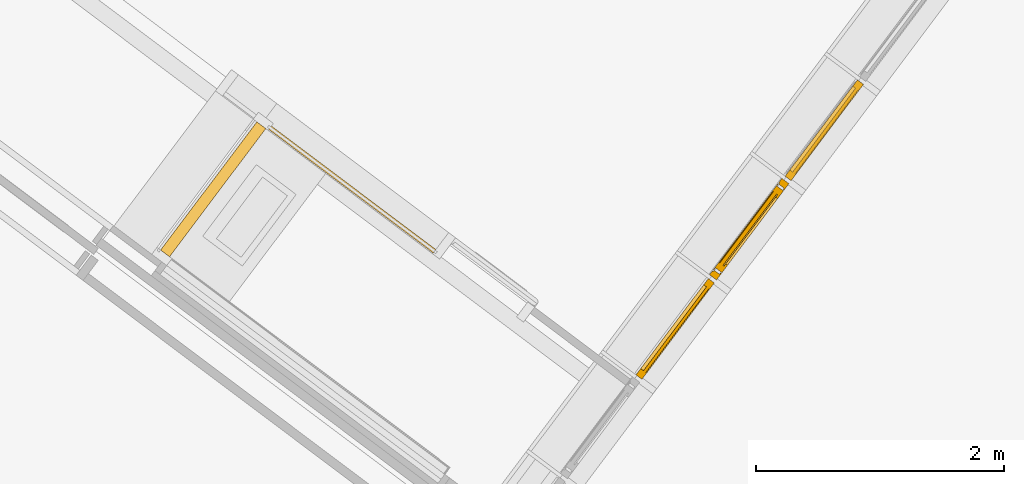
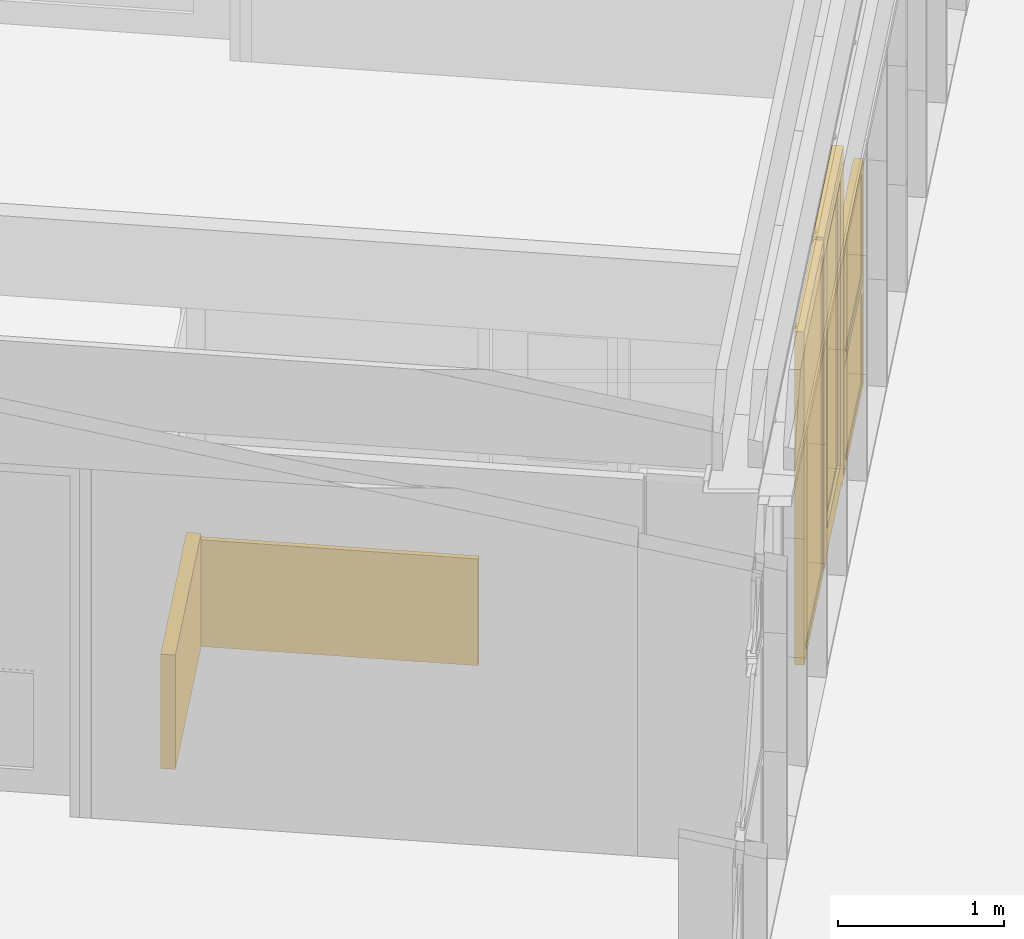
# One storey, part 154 of 243: 3 windows, 2 curtain walls, 1 door, 3 elements without a shape of their own.
"""IFC2X3 building model written with IfcOpenShell, lengths in metres."""

import ifcopenshell
import ifcopenshell.guid

model = None  # the IFC model being written
_history = None  # IfcOwnerHistory: only IFC2X3 demands one
_inside = {}  # id of a spatial element -> (the spatial element, [elements in it])
_under = {}  # id of a project, library or spatial element -> (it, [spatial elements below it])
_declared = {}  # id of a project -> (the project, [libraries it declares])
_typed = {}  # id of a type object -> (the type object, [elements of that type])
_made_of = {}  # id of a material, layer set ... -> (it, [elements and type objects made of it])


def new_model(schema):
    """Start an empty IFC model of exactly this schema.

    Asked for "IFC4X3", IfcOpenShell would pick the latest addendum, in which some entities
    have other attributes; the version numbers below select the first issue.
    IFC2X3 requires an IfcOwnerHistory on every rooted entity: one is made here for all.
    """
    global model, _history
    if schema == "IFC4X3":
        model = ifcopenshell.file(schema_version=(4, 3, 0, 0))
    else:
        model = ifcopenshell.file(schema=schema)
    _inside.clear()
    _under.clear()
    _declared.clear()
    _typed.clear()
    _made_of.clear()
    _history = None
    if model.schema == "IFC2X3":
        org = make("IfcOrganization", Name="unknown")
        user = make(
            "IfcPersonAndOrganization",
            ThePerson=make("IfcPerson", FamilyName="unknown"),
            TheOrganization=org,
        )
        app = make(
            "IfcApplication",
            ApplicationDeveloper=org,
            Version="unknown",
            ApplicationFullName="unknown",
            ApplicationIdentifier="unknown",
        )
        _history = make(
            "IfcOwnerHistory",
            OwningUser=user,
            OwningApplication=app,
            ChangeAction="ADDED",
            CreationDate=0,
        )
    return model


def make(cls, **values):
    """One entity of the class cls with the attributes given. An attribute that is None is left unset."""
    return model.create_entity(
        cls, **{name: value for name, value in values.items() if value is not None}
    )


def entity(cls, *values):
    """Any entity or typed value of the class cls, its attributes in the order of the schema. None: left unset."""
    e = model.create_entity(cls)
    for i, value in enumerate(values):
        if value is not None:
            e[i] = value
    return e


def rooted(cls, **values):
    """An entity with a GlobalId (a new one), such as an element, a storey or a relation."""
    return make(cls, GlobalId=ifcopenshell.guid.new(), OwnerHistory=_history, **values)


def si_unit(unit_type, name, prefix=None):
    """IfcSIUnit, for example si_unit("LENGTHUNIT", "METRE", prefix="MILLI")."""
    return make("IfcSIUnit", UnitType=unit_type, Prefix=prefix, Name=name)


def converted_unit(unit_type, name, factor, base, dimensions=None, offset=None):
    """IfcConversionBasedUnit, such as the inch: factor (a typed value) times the base unit."""
    return make(
        "IfcConversionBasedUnit"
        if offset is None
        else "IfcConversionBasedUnitWithOffset",
        ConversionOffset=offset,
        Dimensions=None
        if dimensions is None
        else entity("IfcDimensionalExponents", *dimensions),
        UnitType=unit_type,
        Name=name,
        ConversionFactor=make(
            "IfcMeasureWithUnit", ValueComponent=factor, UnitComponent=base
        ),
    )


def derived_unit(unit_type, elements):
    """IfcDerivedUnit: a product of units, each with its exponent."""
    return make(
        "IfcDerivedUnit",
        Elements=[
            make("IfcDerivedUnitElement", Unit=unit, Exponent=power)
            for unit, power in elements
        ],
        UnitType=unit_type,
    )


def assignment(units):
    """IfcUnitAssignment: the units of a project."""
    return None if units is None else make("IfcUnitAssignment", Units=units)


def point(xyz):
    """IfcCartesianPoint."""
    return None if xyz is None else make("IfcCartesianPoint", Coordinates=xyz)


def direction(xyz):
    """IfcDirection."""
    return None if xyz is None else make("IfcDirection", DirectionRatios=xyz)


def frame(location, z_axis=None, x_axis=None):
    """IfcAxis2Placement3D, a coordinate frame: its origin and axes. An axis left out is left unset."""
    return make(
        "IfcAxis2Placement3D",
        Location=point(location),
        Axis=direction(z_axis),
        RefDirection=direction(x_axis),
    )


def frame_2d(location, x_axis=None):
    """IfcAxis2Placement2D, a coordinate frame in the plane: its origin and x axis."""
    return make(
        "IfcAxis2Placement2D", Location=point(location), RefDirection=direction(x_axis)
    )


def origin():
    """The frame at (0, 0, 0) with its axes left unset."""
    return frame((0.0, 0.0, 0.0))


def place(relative_to, where):
    """IfcLocalPlacement: puts the frame where relative to a parent placement (None: the world)."""
    return make(
        "IfcLocalPlacement", PlacementRelTo=relative_to, RelativePlacement=where
    )


def context(
    kind, dimensions, precision=None, world=None, true_north=None, identifier=None
):
    """IfcGeometricRepresentationContext, for example the 3D "Model" context."""
    return make(
        "IfcGeometricRepresentationContext",
        ContextIdentifier=identifier,
        ContextType=kind,
        CoordinateSpaceDimension=dimensions,
        Precision=precision,
        WorldCoordinateSystem=world,
        TrueNorth=true_north,
    )


def subcontext(parent, identifier, kind, view, scale=None):
    """IfcGeometricRepresentationSubContext, for example "Body" below "Model"."""
    return make(
        "IfcGeometricRepresentationSubContext",
        ContextIdentifier=identifier,
        ContextType=kind,
        ParentContext=parent,
        TargetScale=scale,
        TargetView=view,
    )


def project(units=None, contexts=None):
    """IfcProject with its units and contexts."""
    return rooted(
        "IfcProject",
        Name="project",
        RepresentationContexts=contexts,
        UnitsInContext=assignment(units),
    )


def spatial(cls, under=None, at=None, **own):
    """A site, building, storey or space (cls), placed at a placement, below another one or the project."""
    s = rooted(cls, ObjectPlacement=at, **own)
    if under is not None:
        _under.setdefault(under.id(), (under, []))[1].append(s)
    return s


def profile(cls, at=None, kind="AREA", **sizes):
    """A parametric profile (cls). Its sizes go by their IFC names, for example OverallWidth=200.0."""
    return make(cls, ProfileType=kind, Position=at, **sizes)


def rectangle(**sizes):
    """IfcRectangleProfileDef."""
    return profile("IfcRectangleProfileDef", **sizes)


def extrude(swept, where, along, depth):
    """IfcExtrudedAreaSolid: the profile swept, set in the frame where, extruded along a direction by depth."""
    return make(
        "IfcExtrudedAreaSolid",
        SweptArea=swept,
        Position=where,
        ExtrudedDirection=direction(along),
        Depth=depth,
    )


def faces_of(points, faces, orient=None, outer=None):
    """IfcFace entities. A face is a list of loops; a loop is a list of indices into points, from 0.

    orient and outer hold one flag for each loop. By default every Orientation is true, the
    first loop of a face is its IfcFaceOuterBound and the others are IfcFaceBound.
    """
    made = []
    for i, loops in enumerate(faces):
        bounds = []
        for j, loop in enumerate(loops):
            is_outer = j == 0 if outer is None else outer[i][j]
            bounds.append(
                make(
                    "IfcFaceOuterBound" if is_outer else "IfcFaceBound",
                    Bound=make("IfcPolyLoop", Polygon=[points[k] for k in loop]),
                    Orientation=True if orient is None else orient[i][j],
                )
            )
        made.append(make("IfcFace", Bounds=bounds))
    return made


def faceted_brep(points, faces, orient=None, outer=None, voids=None):
    """IfcFacetedBrep: a solid bounded by flat faces; with voids (closed shells), ...WithVoids."""
    shared = [point(p) for p in points]
    hull = make("IfcClosedShell", CfsFaces=faces_of(shared, faces, orient, outer))
    if voids is None:
        return make("IfcFacetedBrep", Outer=hull)
    return make(
        "IfcFacetedBrepWithVoids",
        Outer=hull,
        Voids=[
            make(cls, CfsFaces=faces_of(shared, fs, o, b)) for cls, fs, o, b in voids
        ],
    )


def shape(context_of_items, identifier, shape_type, items):
    """IfcShapeRepresentation: the items that make up one representation, for example the "Body"."""
    return make(
        "IfcShapeRepresentation",
        ContextOfItems=context_of_items,
        RepresentationIdentifier=identifier,
        RepresentationType=shape_type,
        Items=items,
    )


def source(mapping_origin, context_of_items, identifier, shape_type, items):
    """IfcRepresentationMap: a shape defined once, which mapped items show again and again."""
    return make(
        "IfcRepresentationMap",
        MappingOrigin=mapping_origin,
        MappedRepresentation=shape(context_of_items, identifier, shape_type, items),
    )


def transform(
    local_origin,
    x_axis=None,
    y_axis=None,
    z_axis=None,
    scale=None,
    scale2=None,
    scale3=None,
    uniform=True,
):
    """IfcCartesianTransformationOperator3D, or its non-uniform kind. x_axis, y_axis, z_axis: its Axis1, 2, 3."""
    if uniform:
        return make(
            "IfcCartesianTransformationOperator3D",
            Axis1=direction(x_axis),
            Axis2=direction(y_axis),
            LocalOrigin=point(local_origin),
            Scale=scale,
            Axis3=direction(z_axis),
        )
    return make(
        "IfcCartesianTransformationOperator3DnonUniform",
        Axis1=direction(x_axis),
        Axis2=direction(y_axis),
        LocalOrigin=point(local_origin),
        Scale=scale,
        Axis3=direction(z_axis),
        Scale2=scale2,
        Scale3=scale3,
    )


def mapped(mapping_source, mapping_target):
    """IfcMappedItem: shows the shape of a source again, moved by a transform."""
    return make(
        "IfcMappedItem", MappingSource=mapping_source, MappingTarget=mapping_target
    )


def material(Name=None, Category=None):
    """IfcMaterial."""
    return make("IfcMaterial", Name=Name, Category=Category)


def material_list(materials):
    """IfcMaterialList."""
    return make("IfcMaterialList", Materials=materials)


def layer(
    of_material, thickness, ventilated=None, Name=None, Category=None, Priority=None
):
    """IfcMaterialLayer: one layer of a wall or slab, of a material (None: an air gap)."""
    return make(
        "IfcMaterialLayer",
        Material=of_material,
        LayerThickness=thickness,
        IsVentilated=ventilated,
        Name=Name,
        Category=Category,
        Priority=Priority,
    )


def layer_set(layers, Name=None):
    """IfcMaterialLayerSet."""
    return make("IfcMaterialLayerSet", MaterialLayers=layers, LayerSetName=Name)


def layer_usage(for_layer_set, set_direction, sense, offset, extent=None):
    """IfcMaterialLayerSetUsage: how a layer set lies in its element."""
    return make(
        "IfcMaterialLayerSetUsage",
        ForLayerSet=for_layer_set,
        LayerSetDirection=set_direction,
        DirectionSense=sense,
        OffsetFromReferenceLine=offset,
        ReferenceExtent=extent,
    )


def made_of(thing, what):
    """Note that an element or type object is made of a material, layer set ...; save() writes the relation."""
    if what is not None:
        _made_of.setdefault(what.id(), (what, []))[1].append(thing)
    return thing


def type_object(cls, material=None, **own):
    """A type object (cls), such as IfcWallType, which elements share."""
    return made_of(rooted(cls, **own), material)


def type_shapes(of_type, sources):
    """Give a type object the sources (RepresentationMaps) that its elements show as mapped items."""
    of_type.RepresentationMaps = sources


def element(
    cls,
    number,
    at=None,
    inside=None,
    cuts=None,
    type_object=None,
    material=None,
    context=None,
    identifier="Body",
    shape_type=None,
    held_by="IfcProductDefinitionShape",
    body=None,
    shapes=None,
    **own,
):
    """One element of the class cls, such as IfcWall. Its Tag is "e" and its number.

    at: its placement. inside: the storey or other place that contains it. cuts: it is an
    opening in that element (IfcRelVoidsElement). A single representation is given by context,
    identifier, shape_type and body (its items); several are given by shapes. held_by: the class
    of the entity that holds the representations. save() writes the other relations.
    """
    e = rooted(cls, Tag="e%d" % number, ObjectPlacement=at, **own)
    if body is not None:
        shapes = [shape(context, identifier, shape_type, body)]
    if shapes is not None:
        e.Representation = make(held_by, Representations=shapes)
    if inside is not None:
        _inside.setdefault(inside.id(), (inside, []))[1].append(e)
    if cuts is not None:
        rooted(
            "IfcRelVoidsElement", RelatingBuildingElement=cuts, RelatedOpeningElement=e
        )
    if type_object is not None:
        _typed.setdefault(type_object.id(), (type_object, []))[1].append(e)
    return made_of(e, material)


def aggregate(whole, parts):
    """IfcRelAggregates: a whole, such as a stair, and the parts it consists of."""
    return rooted("IfcRelAggregates", RelatingObject=whole, RelatedObjects=parts)


def save(model, path):
    """Write the relations noted so far, then the file.

    IfcRelAggregates (storeys below a building ...), IfcRelContainedInSpatialStructure (elements
    in a storey), IfcRelDefinesByType, IfcRelAssociatesMaterial and IfcRelDeclares: one each for
    every whole, place, type object, material and project.
    """
    for whole, parts in _under.values():
        aggregate(whole, parts)
    for where, things in _inside.values():
        rooted(
            "IfcRelContainedInSpatialStructure",
            RelatedElements=things,
            RelatingStructure=where,
        )
    for kind, things in _typed.values():
        rooted("IfcRelDefinesByType", RelatedObjects=things, RelatingType=kind)
    for what, things in _made_of.values():
        rooted("IfcRelAssociatesMaterial", RelatedObjects=things, RelatingMaterial=what)
    for by, libraries in _declared.values():
        rooted("IfcRelDeclares", RelatingContext=by, RelatedDefinitions=libraries)
    model.write(path)


model = new_model("IFC2X3")

# Units and contexts
model_context = context("Model", 3, precision=1e-05, world=origin(), true_north=direction((6.123031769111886e-17, 1.0)))
body_context = subcontext(model_context, "Body", "Model", "MODEL_VIEW")
ifc_project = project(units=[si_unit("LENGTHUNIT", "METRE"), si_unit("AREAUNIT", "SQUARE_METRE"), si_unit("VOLUMEUNIT", "CUBIC_METRE"), converted_unit("PLANEANGLEUNIT", "DEGREE", entity("IfcRatioMeasure", 0.017453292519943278), si_unit("PLANEANGLEUNIT", "RADIAN"), dimensions=[0, 0, 0, 0, 0, 0, 0]), si_unit("MASSUNIT", "GRAM", prefix="KILO"), derived_unit("MASSDENSITYUNIT", [(si_unit("MASSUNIT", "GRAM", prefix="KILO"), 1), (si_unit("LENGTHUNIT", "METRE"), -3)]), derived_unit("IONCONCENTRATIONUNIT", [(si_unit("MASSUNIT", "GRAM", prefix="KILO"), 1), (si_unit("LENGTHUNIT", "METRE"), -3)]), derived_unit("MOMENTOFINERTIAUNIT", [(si_unit("LENGTHUNIT", "METRE"), 4)]), si_unit("TIMEUNIT", "SECOND"), si_unit("FREQUENCYUNIT", "HERTZ"), si_unit("THERMODYNAMICTEMPERATUREUNIT", "DEGREE_CELSIUS"), derived_unit("THERMALTRANSMITTANCEUNIT", [(si_unit("MASSUNIT", "GRAM", prefix="KILO"), 1), (si_unit("THERMODYNAMICTEMPERATUREUNIT", "KELVIN"), -1), (si_unit("TIMEUNIT", "SECOND"), -3)]), derived_unit("THERMALCONDUCTANCEUNIT", [(si_unit("MASSUNIT", "GRAM", prefix="KILO"), 1), (si_unit("THERMODYNAMICTEMPERATUREUNIT", "KELVIN"), -1), (si_unit("TIMEUNIT", "SECOND"), -3), (si_unit("LENGTHUNIT", "METRE"), 1)]), derived_unit("VOLUMETRICFLOWRATEUNIT", [(si_unit("LENGTHUNIT", "METRE"), 3), (si_unit("TIMEUNIT", "SECOND"), -1)]), derived_unit("MASSFLOWRATEUNIT", [(si_unit("MASSUNIT", "GRAM", prefix="KILO"), 1), (si_unit("TIMEUNIT", "SECOND"), -1)]), derived_unit("ROTATIONALFREQUENCYUNIT", [(si_unit("TIMEUNIT", "SECOND"), -1)]), si_unit("ELECTRICCURRENTUNIT", "AMPERE"), si_unit("ELECTRICVOLTAGEUNIT", "VOLT"), si_unit("POWERUNIT", "WATT"), si_unit("FORCEUNIT", "NEWTON", prefix="KILO"), si_unit("ILLUMINANCEUNIT", "LUX"), si_unit("LUMINOUSFLUXUNIT", "LUMEN"), si_unit("LUMINOUSINTENSITYUNIT", "CANDELA"), derived_unit("USERDEFINED", [(si_unit("MASSUNIT", "GRAM", prefix="KILO"), -1), (si_unit("LENGTHUNIT", "METRE"), -2), (si_unit("TIMEUNIT", "SECOND"), 3), (si_unit("LUMINOUSFLUXUNIT", "LUMEN"), 1)]), derived_unit("USERDEFINED", [(si_unit("MASSUNIT", "GRAM", prefix="KILO"), 1), (si_unit("TIMEUNIT", "SECOND"), -3), (si_unit("LENGTHUNIT", "METRE"), 3), (si_unit("ELECTRICCURRENTUNIT", "AMPERE"), -2)]), derived_unit("SOUNDPOWERUNIT", [(si_unit("MASSUNIT", "GRAM", prefix="KILO"), 1), (si_unit("TIMEUNIT", "SECOND"), -3), (si_unit("LENGTHUNIT", "METRE"), 2)]), derived_unit("SOUNDPRESSUREUNIT", [(si_unit("MASSUNIT", "GRAM", prefix="KILO"), 1), (si_unit("LENGTHUNIT", "METRE"), -1), (si_unit("TIMEUNIT", "SECOND"), -2)]), derived_unit("LINEARVELOCITYUNIT", [(si_unit("LENGTHUNIT", "METRE"), 1), (si_unit("TIMEUNIT", "SECOND"), -1)]), si_unit("PRESSUREUNIT", "PASCAL"), derived_unit("USERDEFINED", [(si_unit("MASSUNIT", "GRAM", prefix="KILO"), 1), (si_unit("LENGTHUNIT", "METRE"), -2), (si_unit("TIMEUNIT", "SECOND"), -2)]), derived_unit("LINEARFORCEUNIT", [(si_unit("MASSUNIT", "GRAM", prefix="KILO"), 1), (si_unit("TIMEUNIT", "SECOND"), -2)]), derived_unit("PLANARFORCEUNIT", [(si_unit("MASSUNIT", "GRAM", prefix="KILO"), 1), (si_unit("LENGTHUNIT", "METRE"), -1), (si_unit("TIMEUNIT", "SECOND"), -2)]), derived_unit("SPECIFICHEATCAPACITYUNIT", [(si_unit("THERMODYNAMICTEMPERATUREUNIT", "KELVIN"), -1), (si_unit("LENGTHUNIT", "METRE"), 2), (si_unit("TIMEUNIT", "SECOND"), -2)]), derived_unit("HEATINGVALUEUNIT", [(si_unit("LENGTHUNIT", "METRE"), 2), (si_unit("TIMEUNIT", "SECOND"), -2)]), derived_unit("VAPORPERMEABILITYUNIT", [(si_unit("LENGTHUNIT", "METRE"), -1), (si_unit("TIMEUNIT", "SECOND"), 1)]), derived_unit("DYNAMICVISCOSITYUNIT", [(si_unit("MASSUNIT", "GRAM", prefix="KILO"), 1), (si_unit("TIMEUNIT", "SECOND"), -1), (si_unit("LENGTHUNIT", "METRE"), -1)]), derived_unit("THERMALEXPANSIONCOEFFICIENTUNIT", [(si_unit("THERMODYNAMICTEMPERATUREUNIT", "KELVIN"), -1)]), derived_unit("MODULUSOFELASTICITYUNIT", [(si_unit("MASSUNIT", "GRAM", prefix="KILO"), 1), (si_unit("LENGTHUNIT", "METRE"), -1), (si_unit("TIMEUNIT", "SECOND"), -2)]), derived_unit("ISOTHERMALMOISTURECAPACITYUNIT", [(si_unit("LENGTHUNIT", "METRE"), 3), (si_unit("MASSUNIT", "GRAM", prefix="KILO"), -1)]), derived_unit("MOISTUREDIFFUSIVITYUNIT", [(si_unit("TIMEUNIT", "SECOND"), -1), (si_unit("LENGTHUNIT", "METRE"), 2)])], contexts=[model_context])

# Site, building, storey
site_placement = place(None, frame((0.0, 0.0, 235.0), z_axis=(0.0, 0.0, 1.0), x_axis=(-0.7996477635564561, 0.6004693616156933, 0.0)))
site = spatial("IfcSite", under=ifc_project, at=site_placement, Name="Default", CompositionType="ELEMENT")
building_placement = place(site_placement, origin())
building = spatial("IfcBuilding", under=site, at=building_placement, CompositionType="ELEMENT")
storey_placement = place(building_placement, origin())
storey = spatial("IfcBuildingStorey", under=building, at=storey_placement, Name="P0- Escola", CompositionType="ELEMENT", Elevation=0.0)

# Curtain walls
curtain_wall_type_1 = type_object("IfcCurtainWallType", Name="Muro cortina:MC- INT- k1", PredefinedType="NOTDEFINED")
curtain_wall_1_placement = place(storey_placement, origin())
curtain_wall_1 = element("IfcCurtainWall", 1, at=curtain_wall_1_placement, inside=storey, type_object=curtain_wall_type_1, Name="Muro cortina:MC- INT- k1", ObjectType="Muro cortina:MC- INT- k1")
ifc_material_1 = material(Name="_Fusta massisa- T1-  REV- PAV")
ifc_layer_1 = layer(ifc_material_1, 0.015)
ifc_material_2 = material(Name="_Genèric perfils, muntants, rastrells")
ifc_layer_2 = layer(ifc_material_2, 0.02)
ifc_layer_set_1 = layer_set([ifc_layer_1, ifc_layer_2], Name="Muro básico:REV- Fusta- T1- 3,5 cm")
ifc_layer_usage_1 = layer_usage(ifc_layer_set_1, "AXIS2", "NEGATIVE", 0.0175)
curtain_wall_type_2 = type_object("IfcCurtainWallType", Name="Muro básico:REV- Fusta- T1- 3,5 cm", PredefinedType="NOTDEFINED", material=ifc_layer_set_1)
curtain_wall_2_placement = place(storey_placement, frame((9.57014768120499, -27.82719175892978, 0.0), z_axis=(0.0, 0.0, 1.0), x_axis=(-1.0, 0.0, 0.0)))
curtain_wall_2 = element("IfcCurtainWall", 2, at=curtain_wall_2_placement, type_object=curtain_wall_type_2, material=ifc_layer_usage_1, Name="Muro básico:REV- Fusta- T1- 3,5 cm", ObjectType="Muro básico:REV- Fusta- T1- 3,5 cm", context=body_context, shape_type="SweptSolid", body=[
    extrude(rectangle(XDim=0.035000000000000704, YDim=1.731000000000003, at=frame_2d((-2.1649348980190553e-15, 1.0547118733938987e-15), x_axis=(1.0, 0.0))), frame((0.8655000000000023, 0.0, 0.0), z_axis=(0.0, 0.0, 1.0), x_axis=(0.0, 1.0, 0.0)), (0.0, 0.0, 1.0), 0.7849999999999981),
])
aggregate(curtain_wall_1, [curtain_wall_2])

curtain_wall_type_3 = type_object("IfcCurtainWallType", Name="Muro cortina:MC- INT- k1", PredefinedType="NOTDEFINED")
curtain_wall_3_placement = place(storey_placement, origin())
curtain_wall_3 = element("IfcCurtainWall", 3, at=curtain_wall_3_placement, inside=storey, type_object=curtain_wall_type_3, Name="Muro cortina:MC- INT- k1", ObjectType="Muro cortina:MC- INT- k1")
ifc_material_3 = material(Name="_Ceràmica- ENV")
ifc_layer_3 = layer(ifc_material_3, 0.09)
ifc_layer_set_2 = layer_set([ifc_layer_3], Name="Muro básico:ENV- Ceràmic- 9 cm")
ifc_layer_usage_2 = layer_usage(ifc_layer_set_2, "AXIS2", "NEGATIVE", 0.045)
curtain_wall_type_4 = type_object("IfcCurtainWallType", Name="Muro básico:ENV- Ceràmic- 9 cm", PredefinedType="NOTDEFINED", material=ifc_layer_set_2)
curtain_wall_4_placement = place(storey_placement, frame((9.564147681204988, -27.801191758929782, 0.0), z_axis=(0.0, 0.0, 1.0), x_axis=(0.0, 1.0, 0.0)))
curtain_wall_4 = element("IfcCurtainWall", 4, at=curtain_wall_4_placement, type_object=curtain_wall_type_4, material=ifc_layer_usage_2, Name="Muro básico:ENV- Ceràmic- 9 cm", ObjectType="Muro básico:ENV- Ceràmic- 9 cm", context=body_context, shape_type="SweptSolid", body=[
    extrude(rectangle(XDim=0.09000000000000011, YDim=1.2910000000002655, at=frame_2d((-5.412337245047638e-16, 2.1649348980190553e-15), x_axis=(1.0, 0.0))), frame((0.6455000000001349, 0.0, 0.0), z_axis=(0.0, 0.0, 1.0), x_axis=(0.0, 1.0, 0.0)), (0.0, 0.0, 1.0), 0.8399999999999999),
])
aggregate(curtain_wall_3, [curtain_wall_4])

# Curtain wall, windows, door
curtain_wall_type_5 = type_object("IfcCurtainWallType", Name="Muro cortina:MC- EXT- MC2", PredefinedType="NOTDEFINED")
curtain_wall_5_placement = place(storey_placement, origin())
curtain_wall_5 = element("IfcCurtainWall", 5, at=curtain_wall_5_placement, inside=storey, type_object=curtain_wall_type_5, Name="Muro cortina:MC- EXT- MC2", ObjectType="Muro cortina:MC- EXT- MC2")
ifc_material_4 = material(Name="_Vidre")
ifc_material_5 = material(Name="_Alumini- T1- Perfil")
ifc_material_list_1 = material_list([ifc_material_4, ifc_material_5])
window_style_1 = type_object("IfcWindowStyle", Name="MC- Alu- Conjunt vidre fix- 62x60 cm:MC- Alu- Conjunt vidre fix- 62x60 cm", ConstructionType="NOTDEFINED", OperationType="NOTDEFINED", ParameterTakesPrecedence=False, Sizeable=False, material=ifc_material_list_1)
shared_shape_1 = source(origin(), body_context, "Body", "Brep", [
    faceted_brep([(0.4361932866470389, -0.007600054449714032, 0.048806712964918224), (0.4361932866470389, -0.03160022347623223, 0.048806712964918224), (-0.4361932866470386, -0.03160022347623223, 0.048806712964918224), (-0.4361932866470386, -0.007600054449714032, 0.048806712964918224), (0.4361932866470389, -0.007600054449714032, 2.4024499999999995), (-0.4361932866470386, -0.007600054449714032, 2.4024499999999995), (-0.4361932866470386, -0.03160022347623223, 2.4024499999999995), (0.4361932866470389, -0.03160022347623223, 2.4024499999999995)], [[[0, 1, 2, 3]], [[4, 0, 3, 5]], [[5, 3, 2, 6]], [[6, 2, 1, 7]], [[7, 1, 0, 4]], [[4, 5, 6, 7]]]),
    faceted_brep([(0.4849999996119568, -0.05999999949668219, 2.4514499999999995), (0.48499999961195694, -0.05999999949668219, 0.0), (0.48499999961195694, 0.0, 0.0), (0.48499999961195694, 0.0, 2.4514499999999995), (-0.48499999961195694, 0.0, 2.4514499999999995), (-0.48499999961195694, 0.0, 0.0), (0.42219318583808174, 0.0, 2.3886431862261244), (-0.42219318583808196, 0.0, 2.3886431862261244), (-0.42219318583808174, 0.0, 0.0628068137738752), (0.422193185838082, 0.0, 0.06280681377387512), (-0.48499999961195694, -0.05999999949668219, 0.0), (-0.4849999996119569, -0.05999999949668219, 2.4514499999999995), (-0.4221960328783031, -0.05999999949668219, 2.3886460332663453), (0.4221960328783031, -0.05999999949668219, 2.3886460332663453), (0.4221960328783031, -0.05999999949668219, 0.06280396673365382), (-0.4221960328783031, -0.05999999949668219, 0.06280396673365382), (0.42219603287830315, -0.03160022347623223, 2.3886460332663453), (0.4221960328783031, -0.03160022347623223, 0.06280396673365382), (-0.4221960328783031, -0.03160022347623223, 0.0628039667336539), (-0.42219603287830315, -0.03160022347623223, 2.3886460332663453), (-0.43619328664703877, -0.03160022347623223, 2.4026432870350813), (0.43619328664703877, -0.03160022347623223, 2.4026432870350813), (0.43619328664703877, -0.03160022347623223, 0.048806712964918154), (-0.43619328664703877, -0.03160022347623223, 0.04880671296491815), (0.43619328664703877, -0.007600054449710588, 2.4026432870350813), (0.43619328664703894, -0.007600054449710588, 0.04880671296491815), (-0.43619328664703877, -0.007600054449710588, 0.048806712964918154), (-0.43619328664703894, -0.007600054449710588, 2.4026432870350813), (-0.42219318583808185, -0.007600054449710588, 2.3886431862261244), (0.4221931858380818, -0.007600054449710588, 2.3886431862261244), (0.4221931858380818, -0.007600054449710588, 0.06280681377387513), (-0.4221931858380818, -0.007600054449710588, 0.06280681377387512)], [[[0, 1, 2, 3]], [[4, 3, 2, 5], [6, 7, 8, 9]], [[1, 10, 5, 2]], [[0, 11, 10, 1], [12, 13, 14, 15]], [[16, 17, 14, 13]], [[17, 18, 15, 14]], [[16, 19, 18, 17], [20, 21, 22, 23]], [[24, 25, 22, 21]], [[25, 26, 23, 22]], [[24, 27, 26, 25], [28, 29, 30, 31]], [[6, 9, 30, 29]], [[9, 8, 31, 30]], [[10, 11, 4, 5]], [[18, 19, 12, 15]], [[26, 27, 20, 23]], [[8, 7, 28, 31]], [[11, 0, 3, 4]], [[19, 16, 13, 12]], [[27, 24, 21, 20]], [[7, 6, 29, 28]]], outer=[[True], [True, False], [True], [True, False], [True], [True], [False, True], [True], [True], [True, False], [True], [True], [True], [True], [True], [True], [True], [True], [True], [True]]),
])
type_shapes(window_style_1, [shared_shape_1])
window_1_placement = place(curtain_wall_5_placement, frame((5.885147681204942, -28.49019175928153, 0.03229999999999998), z_axis=(0.0, 0.0, 1.0), x_axis=(0.0, 1.0, 0.0)))
window_1 = element("IfcWindow", 6, at=window_1_placement, type_object=window_style_1, material=ifc_material_list_1, Name="MC- Alu- Conjunt vidre fix- 62x60 cm:MC- Alu- Conjunt vidre fix- 62x60 cm", ObjectType="MC- Alu- Conjunt vidre fix- 62x60 cm:MC- Alu- Conjunt vidre fix- 62x60 cm", OverallHeight=2.4514499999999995, OverallWidth=0.969999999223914, context=body_context, shape_type="MappedRepresentation", body=[
    mapped(shared_shape_1, transform((0.0, 0.0, 0.0), scale=1.0)),
])
ifc_material_list_2 = material_list([ifc_material_5, ifc_material_4])
door_style = type_object("IfcDoorStyle", Name="MC- Alu- Conjunt porta- 70x60 cm- +15cm- obertura int:MC- Alu- Conjunt porta- 70x60 cm- +15cm- obertura int", ConstructionType="NOTDEFINED", OperationType="NOTDEFINED", ParameterTakesPrecedence=False, Sizeable=False, material=ifc_material_list_2)
shared_shape_2 = source(origin(), body_context, "Body", "Brep", [
    faceted_brep([(-0.4116999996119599, 0.0, 0.024000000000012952), (0.4116999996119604, 0.0, 0.024000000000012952), (0.4116999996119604, -0.06569970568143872, 0.024000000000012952), (-0.41169999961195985, -0.0656997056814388, 0.024000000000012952), (-0.4116999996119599, -0.0656997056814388, 2.3781499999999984), (-0.4116999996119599, 0.0, 2.3781499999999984), (0.41169999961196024, -0.06569970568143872, 2.3781499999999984), (0.4356999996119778, -0.06569970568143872, 0.0), (-0.43569999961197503, -0.06569970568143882, 0.0), (-0.4356999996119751, -0.06569970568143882, 2.4021500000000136), (0.43569999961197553, -0.06569970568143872, 2.4021500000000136), (0.4116999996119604, 0.0, 2.3781499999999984), (-0.3350999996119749, 0.0, 2.3015500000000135), (-0.33509999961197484, 0.0, 0.20400000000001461), (0.3350999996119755, 0.0, 0.20400000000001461), (0.33509999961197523, 0.0, 2.3015500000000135), (0.43569999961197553, -0.0699997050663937, 2.4021500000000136), (0.43569999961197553, -0.0699997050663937, 0.0), (-0.43569999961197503, -0.06999970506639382, 0.0), (-0.4356999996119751, -0.06999970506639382, 2.4021500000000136), (0.3350999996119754, -0.06999970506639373, 2.3015500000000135), (0.3350999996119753, -0.06999970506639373, 0.20400000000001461), (-0.33509999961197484, -0.06999970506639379, 0.20400000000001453), (-0.3350999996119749, -0.06999970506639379, 2.3015500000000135), (0.33509999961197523, -0.06449970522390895, 2.3015500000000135), (0.3350999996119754, -0.06449970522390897, 0.20400000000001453), (-0.33509999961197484, -0.06449970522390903, 0.20400000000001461), (-0.3350999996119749, -0.06449970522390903, 2.3015500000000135), (0.36010000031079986, -0.06449970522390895, 2.326550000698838), (0.36010000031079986, -0.06449970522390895, 0.17899999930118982), (-0.3601000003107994, -0.06449970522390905, 0.17899999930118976), (-0.3601000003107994, -0.06449970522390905, 2.326550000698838), (0.3601000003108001, -0.01899970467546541, 2.326550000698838), (0.36010000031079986, -0.018999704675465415, 0.17899999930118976), (-0.3601000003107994, -0.018999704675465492, 0.17899999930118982), (-0.36010000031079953, -0.01899970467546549, 2.326550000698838), (0.3350999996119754, -0.018999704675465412, 2.3015500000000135), (0.33509999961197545, -0.018999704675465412, 0.20400000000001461), (-0.33509999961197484, -0.018999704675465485, 0.20400000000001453), (-0.3350999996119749, -0.018999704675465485, 2.3015500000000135)], [[[0, 1, 2, 3]], [[4, 5, 0, 3]], [[2, 6, 4, 3], [7, 8, 9, 10]], [[2, 1, 11, 6]], [[11, 1, 0, 5], [12, 13, 14, 15]], [[16, 17, 7, 10]], [[8, 7, 17, 18]], [[18, 17, 16, 19], [20, 21, 22, 23]], [[24, 25, 21, 20]], [[21, 25, 26, 22]], [[27, 26, 25, 24], [28, 29, 30, 31]], [[32, 33, 29, 28]], [[33, 34, 30, 29]], [[35, 34, 33, 32], [36, 37, 38, 39]], [[15, 14, 37, 36]], [[37, 14, 13, 38]], [[9, 8, 18, 19]], [[23, 22, 26, 27]], [[31, 30, 34, 35]], [[39, 38, 13, 12]], [[19, 16, 10, 9]], [[27, 24, 20, 23]], [[35, 32, 28, 31]], [[12, 15, 36, 39]], [[4, 6, 11, 5]]], outer=[[True], [True], [False, True], [True], [True, False], [True], [True], [True, False], [True], [True], [False, True], [True], [True], [True, False], [True], [True], [True], [True], [True], [True], [True], [True], [True], [True], [True]]),
    faceted_brep([(0.36010000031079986, -0.06089980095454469, 0.17899999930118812), (-0.3601000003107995, -0.06089980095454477, 0.17899999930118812), (-0.36010000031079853, -0.028899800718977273, 0.17899999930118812), (0.36010000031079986, -0.02889980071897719, 0.17899999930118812), (0.36010000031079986, -0.060899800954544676, 2.326550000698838), (0.36010000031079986, -0.02889980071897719, 2.326550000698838), (-0.36010000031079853, -0.028899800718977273, 2.326550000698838), (-0.3601000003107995, -0.06089980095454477, 2.326550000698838)], [[[0, 1, 2, 3]], [[4, 0, 3, 5]], [[5, 3, 2, 6]], [[6, 2, 1, 7]], [[7, 1, 0, 4]], [[4, 5, 6, 7]]]),
    faceted_brep([(-0.4849999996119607, -0.06999999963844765, 0.0), (-0.4849999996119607, 0.0, 0.0), (-0.41769999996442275, 0.0, 0.0), (-0.41769999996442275, -0.008800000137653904, 0.0), (-0.43319996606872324, -0.008800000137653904, 0.0), (-0.43319996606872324, -0.059699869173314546, 0.0), (-0.4436999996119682, -0.059699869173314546, 0.0), (-0.4436999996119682, -0.06999999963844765, 0.0), (-0.4436999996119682, -0.06999999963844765, 2.4101500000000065), (0.4436999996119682, -0.06999999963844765, 2.4101500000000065), (0.4436999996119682, -0.06999999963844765, 0.0), (0.4849999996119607, -0.06999999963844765, 0.0), (0.4849999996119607, -0.06999999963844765, 2.4514499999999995), (-0.48499999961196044, -0.06999999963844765, 2.451449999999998), (-0.4436999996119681, -0.059699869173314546, 2.4101500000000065), (-0.43319996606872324, -0.059699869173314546, 2.3996499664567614), (0.43319996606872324, -0.059699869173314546, 2.3996499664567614), (0.43319996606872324, -0.059699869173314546, 0.0), (0.4436999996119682, -0.059699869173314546, 0.0), (0.4436999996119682, -0.059699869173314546, 2.4101500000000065), (-0.4331999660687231, -0.008800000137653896, 2.3996499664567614), (-0.41769999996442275, -0.008800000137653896, 2.3841500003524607), (0.41769999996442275, -0.008800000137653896, 2.3841500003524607), (0.41769999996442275, -0.008800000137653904, 0.0), (0.43319996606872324, -0.008800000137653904, 0.0), (0.43319996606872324, -0.008800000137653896, 2.3996499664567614), (-0.4176999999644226, 0.0, 2.3841500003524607), (-0.4849999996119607, 0.0, 2.4514499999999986), (0.4849999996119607, 0.0, 2.4514499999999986), (0.4849999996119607, 0.0, 0.0), (0.41769999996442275, 0.0, 0.0), (0.41769999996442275, 0.0, 2.3841500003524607)], [[[0, 1, 2, 3, 4, 5, 6, 7]], [[7, 8, 9, 10, 11, 12, 13, 0]], [[6, 14, 8, 7]], [[5, 15, 16, 17, 18, 19, 14, 6]], [[4, 20, 15, 5]], [[3, 21, 22, 23, 24, 25, 20, 4]], [[2, 26, 21, 3]], [[1, 27, 28, 29, 30, 31, 26, 2]], [[0, 13, 27, 1]], [[11, 10, 18, 17, 24, 23, 30, 29]], [[12, 11, 29, 28]], [[31, 30, 23, 22]], [[25, 24, 17, 16]], [[19, 18, 10, 9]], [[14, 19, 9, 8]], [[20, 25, 16, 15]], [[26, 31, 22, 21]], [[13, 12, 28, 27]]]),
])
type_shapes(door_style, [shared_shape_2])
door_placement = place(curtain_wall_5_placement, frame((5.885147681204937, -29.49019175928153, 0.03229999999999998), z_axis=(0.0, 0.0, 1.0), x_axis=(0.0, 1.0, 0.0)))
door = element("IfcDoor", 7, at=door_placement, type_object=door_style, material=ifc_material_list_2, Name="MC- Alu- Conjunt porta- 70x60 cm- +15cm- obertura int:MC- Alu- Conjunt porta- 70x60 cm- +15cm- obertura int", ObjectType="MC- Alu- Conjunt porta- 70x60 cm- +15cm- obertura int:MC- Alu- Conjunt porta- 70x60 cm- +15cm- obertura int", OverallHeight=2.4514500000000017, OverallWidth=0.9699999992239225, context=body_context, shape_type="MappedRepresentation", body=[
    mapped(shared_shape_2, transform((0.0, 0.0, 0.0), scale=1.0)),
])
window_style_2 = type_object("IfcWindowStyle", Name="MC- Alu- Conjunt vidre fix- 62x60 cm:MC- Alu- Conjunt vidre fix- 62x60 cm", ConstructionType="NOTDEFINED", OperationType="NOTDEFINED", ParameterTakesPrecedence=False, Sizeable=False, material=ifc_material_list_1)
shared_shape_3 = source(origin(), body_context, "Body", "Brep", [
    faceted_brep([(0.4361932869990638, -0.007600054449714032, 0.048806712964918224), (0.4361932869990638, -0.03160022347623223, 0.048806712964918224), (-0.4361932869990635, -0.03160022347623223, 0.048806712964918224), (-0.4361932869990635, -0.007600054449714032, 0.048806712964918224), (0.4361932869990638, -0.007600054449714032, 0.7387000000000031), (-0.4361932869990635, -0.007600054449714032, 0.7387000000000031), (-0.4361932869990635, -0.03160022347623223, 0.7387000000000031), (0.4361932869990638, -0.03160022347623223, 0.7387000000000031)], [[[0, 1, 2, 3]], [[4, 0, 3, 5]], [[5, 3, 2, 6]], [[6, 2, 1, 7]], [[7, 1, 0, 4]], [[4, 5, 6, 7]]]),
    faceted_brep([(0.48499999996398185, -0.05999999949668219, 0.7877000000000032), (0.48499999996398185, -0.05999999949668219, 0.0), (0.48499999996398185, 0.0, 0.0), (0.48499999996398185, 0.0, 0.787700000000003), (-0.48499999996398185, 0.0, 0.7877000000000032), (-0.48499999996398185, 0.0, 0.0), (0.4221931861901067, 0.0, 0.7248931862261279), (-0.42219318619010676, 0.0, 0.724893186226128), (-0.4221931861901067, 0.0, 0.0628068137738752), (0.4221931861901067, 0.0, 0.06280681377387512), (-0.48499999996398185, -0.05999999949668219, 0.0), (-0.48499999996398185, -0.05999999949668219, 0.7877000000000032), (-0.42219603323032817, -0.05999999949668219, 0.7248960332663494), (0.42219603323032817, -0.05999999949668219, 0.7248960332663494), (0.42219603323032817, -0.05999999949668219, 0.0628039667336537), (-0.42219603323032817, -0.05999999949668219, 0.0628039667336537), (0.4221960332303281, -0.03160022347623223, 0.7248960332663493), (0.42219603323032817, -0.03160022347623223, 0.0628039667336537), (-0.42219603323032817, -0.03160022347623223, 0.06280396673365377), (-0.42219603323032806, -0.03160022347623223, 0.7248960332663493), (-0.43619328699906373, -0.03160022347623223, 0.738893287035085), (0.43619328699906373, -0.03160022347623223, 0.738893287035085), (0.43619328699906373, -0.03160022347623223, 0.048806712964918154), (-0.43619328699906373, -0.03160022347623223, 0.04880671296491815), (0.43619328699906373, -0.007600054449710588, 0.738893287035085), (0.43619328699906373, -0.007600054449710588, 0.04880671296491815), (-0.43619328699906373, -0.007600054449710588, 0.048806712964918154), (-0.43619328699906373, -0.007600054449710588, 0.738893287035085), (-0.42219318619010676, -0.007600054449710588, 0.724893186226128), (0.42219318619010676, -0.007600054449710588, 0.724893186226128), (0.42219318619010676, -0.007600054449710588, 0.06280681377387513), (-0.42219318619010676, -0.007600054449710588, 0.06280681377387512)], [[[0, 1, 2, 3]], [[4, 3, 2, 5], [6, 7, 8, 9]], [[1, 10, 5, 2]], [[0, 11, 10, 1], [12, 13, 14, 15]], [[16, 17, 14, 13]], [[17, 18, 15, 14]], [[16, 19, 18, 17], [20, 21, 22, 23]], [[24, 25, 22, 21]], [[25, 26, 23, 22]], [[24, 27, 26, 25], [28, 29, 30, 31]], [[6, 9, 30, 29]], [[9, 8, 31, 30]], [[10, 11, 4, 5]], [[18, 19, 12, 15]], [[26, 27, 20, 23]], [[8, 7, 28, 31]], [[11, 0, 3, 4]], [[19, 16, 13, 12]], [[27, 24, 21, 20]], [[7, 6, 29, 28]]], outer=[[True], [True, False], [True], [True, False], [True], [True], [False, True], [True], [True], [True, False], [True], [True], [True], [True], [True], [True], [True], [True], [True], [True]]),
])
type_shapes(window_style_2, [shared_shape_3])
window_2_placement = place(curtain_wall_5_placement, frame((5.885147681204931, -30.49019175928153, 0.03229999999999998), z_axis=(0.0, 0.0, 1.0), x_axis=(0.0, 1.0, 0.0)))
window_2 = element("IfcWindow", 8, at=window_2_placement, type_object=window_style_2, material=ifc_material_list_1, Name="MC- Alu- Conjunt vidre fix- 62x60 cm:MC- Alu- Conjunt vidre fix- 62x60 cm", ObjectType="MC- Alu- Conjunt vidre fix- 62x60 cm:MC- Alu- Conjunt vidre fix- 62x60 cm", OverallHeight=0.7877000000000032, OverallWidth=0.9699999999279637, context=body_context, shape_type="MappedRepresentation", body=[
    mapped(shared_shape_3, transform((0.0, 0.0, 0.0), scale=1.0)),
])
window_style_3 = type_object("IfcWindowStyle", Name="MC- Alu- Conjunt vidre fix- 62x60 cm:MC- Alu- Conjunt vidre fix- 62x60 cm", ConstructionType="NOTDEFINED", OperationType="NOTDEFINED", ParameterTakesPrecedence=False, Sizeable=False, material=ifc_material_list_1)
shared_shape_4 = source(origin(), body_context, "Body", "Brep", [
    faceted_brep([(0.4361932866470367, -0.007600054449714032, 0.048806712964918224), (0.4361932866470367, -0.03160022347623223, 0.048806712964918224), (-0.43619328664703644, -0.03160022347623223, 0.048806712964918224), (-0.43619328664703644, -0.007600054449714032, 0.048806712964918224), (0.4361932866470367, -0.007600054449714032, 0.8260000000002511), (-0.43619328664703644, -0.007600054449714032, 0.8260000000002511), (-0.43619328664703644, -0.03160022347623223, 0.8260000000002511), (0.4361932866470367, -0.03160022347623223, 0.8260000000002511)], [[[0, 1, 2, 3]], [[4, 0, 3, 5]], [[5, 3, 2, 6]], [[6, 2, 1, 7]], [[7, 1, 0, 4]], [[4, 5, 6, 7]]]),
    faceted_brep([(0.4849999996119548, -0.05999999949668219, 0.875000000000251), (0.4849999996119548, -0.05999999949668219, 0.0), (0.4849999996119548, 0.0, 0.0), (0.4849999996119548, 0.0, 0.8750000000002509), (-0.4849999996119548, 0.0, 0.875000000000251), (-0.4849999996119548, 0.0, 0.0), (0.4221931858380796, 0.0, 0.8121931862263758), (-0.4221931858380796, 0.0, 0.8121931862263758), (-0.4221931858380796, 0.0, 0.0628068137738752), (0.4221931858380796, 0.0, 0.06280681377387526), (-0.4849999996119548, -0.05999999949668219, 0.0), (-0.4849999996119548, -0.05999999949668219, 0.875000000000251), (-0.4221960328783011, -0.05999999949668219, 0.8121960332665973), (0.4221960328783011, -0.05999999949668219, 0.8121960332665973), (0.4221960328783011, -0.05999999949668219, 0.0628039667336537), (-0.4221960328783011, -0.05999999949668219, 0.0628039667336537), (0.422196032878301, -0.03160022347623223, 0.8121960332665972), (0.4221960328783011, -0.03160022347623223, 0.0628039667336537), (-0.4221960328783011, -0.03160022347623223, 0.06280396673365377), (-0.42219603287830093, -0.03160022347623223, 0.8121960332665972), (-0.4361932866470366, -0.03160022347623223, 0.8261932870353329), (0.4361932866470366, -0.03160022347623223, 0.8261932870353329), (0.4361932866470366, -0.03160022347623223, 0.048806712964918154), (-0.4361932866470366, -0.03160022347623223, 0.04880671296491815), (0.4361932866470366, -0.007600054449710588, 0.8261932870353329), (0.4361932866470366, -0.007600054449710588, 0.04880671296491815), (-0.4361932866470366, -0.007600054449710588, 0.048806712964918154), (-0.4361932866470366, -0.007600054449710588, 0.8261932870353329), (-0.42219318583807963, -0.007600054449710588, 0.8121931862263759), (0.42219318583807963, -0.007600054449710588, 0.8121931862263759), (0.42219318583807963, -0.007600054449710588, 0.06280681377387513), (-0.42219318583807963, -0.007600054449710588, 0.06280681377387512)], [[[0, 1, 2, 3]], [[4, 3, 2, 5], [6, 7, 8, 9]], [[1, 10, 5, 2]], [[0, 11, 10, 1], [12, 13, 14, 15]], [[16, 17, 14, 13]], [[17, 18, 15, 14]], [[16, 19, 18, 17], [20, 21, 22, 23]], [[24, 25, 22, 21]], [[25, 26, 23, 22]], [[24, 27, 26, 25], [28, 29, 30, 31]], [[6, 9, 30, 29]], [[9, 8, 31, 30]], [[10, 11, 4, 5]], [[18, 19, 12, 15]], [[26, 27, 20, 23]], [[8, 7, 28, 31]], [[11, 0, 3, 4]], [[19, 16, 13, 12]], [[27, 24, 21, 20]], [[7, 6, 29, 28]]], outer=[[True], [True, False], [True], [True, False], [True], [True], [False, True], [True], [True], [True, False], [True], [True], [True], [True], [True], [True], [True], [True], [True], [True]]),
])
type_shapes(window_style_3, [shared_shape_4])
window_3_placement = place(curtain_wall_5_placement, frame((5.885147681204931, -30.490191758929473, 0.8199999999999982), z_axis=(0.0, 0.0, 1.0), x_axis=(0.0, 1.0, 0.0)))
window_3 = element("IfcWindow", 9, at=window_3_placement, type_object=window_style_3, material=ifc_material_list_1, Name="MC- Alu- Conjunt vidre fix- 62x60 cm:MC- Alu- Conjunt vidre fix- 62x60 cm", ObjectType="MC- Alu- Conjunt vidre fix- 62x60 cm:MC- Alu- Conjunt vidre fix- 62x60 cm", OverallHeight=0.875000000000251, OverallWidth=0.9699999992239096, context=body_context, shape_type="MappedRepresentation", body=[
    mapped(shared_shape_4, transform((0.0, 0.0, 0.0), scale=1.0)),
])
aggregate(curtain_wall_5, [window_1, door, window_2, window_3])

save(model, "model.ifc")
